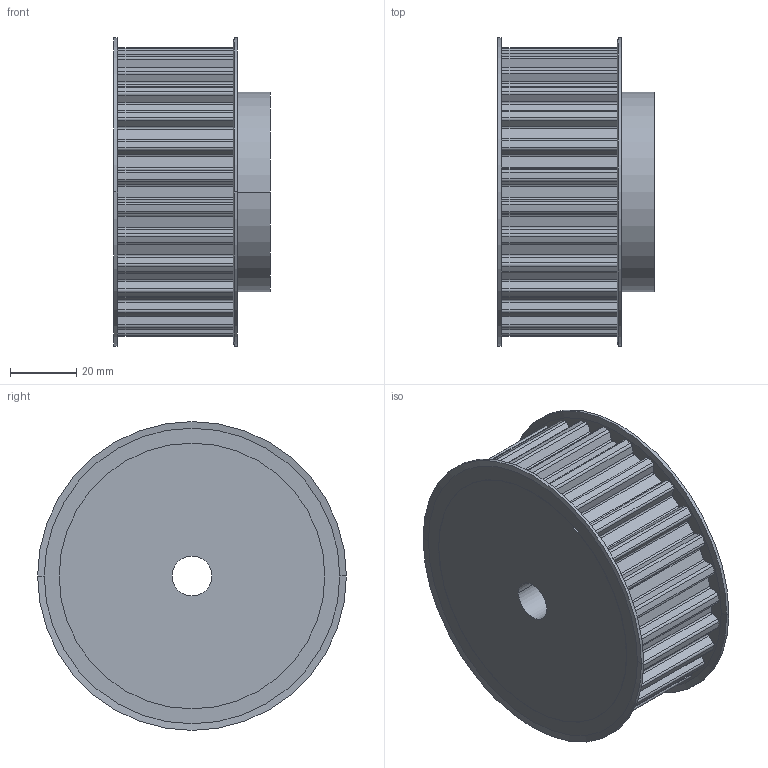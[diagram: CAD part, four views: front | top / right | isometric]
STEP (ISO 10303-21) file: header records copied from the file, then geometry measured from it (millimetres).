
FILE_DESCRIPTION( ( '' ), '1' );
FILE_NAME( 'C:/Users/Stangenbergd/Documents/CAD_Step/1/16442800.stp', '2021-10-19T08:57:35', ( '' ), ( '' ), ' ', ' ', ' ' );
FILE_SCHEMA( ( 'CONFIG_CONTROL_DESIGN' ) );
Length unit declared in the file: millimetre
Products named in the file (1): 1
Bounding box: 47.13 x 93 x 93 mm (x, y, z)
Volume: 227893.7 mm3; surface area: 33753.2 mm2
Topology: 1 solids, 1 shells, 251 faces, 724 edges, 480 vertices
Faces by surface type: cylinder 152, plane 91, cone 8
Entity records: 8414 total; most frequent: DIRECTION 1540, CARTESIAN_POINT 1456, ORIENTED_EDGE 1448, EDGE_CURVE 724, AXIS2_PLACEMENT_3D 564, VERTEX_POINT 480, LINE 412, VECTOR 412
